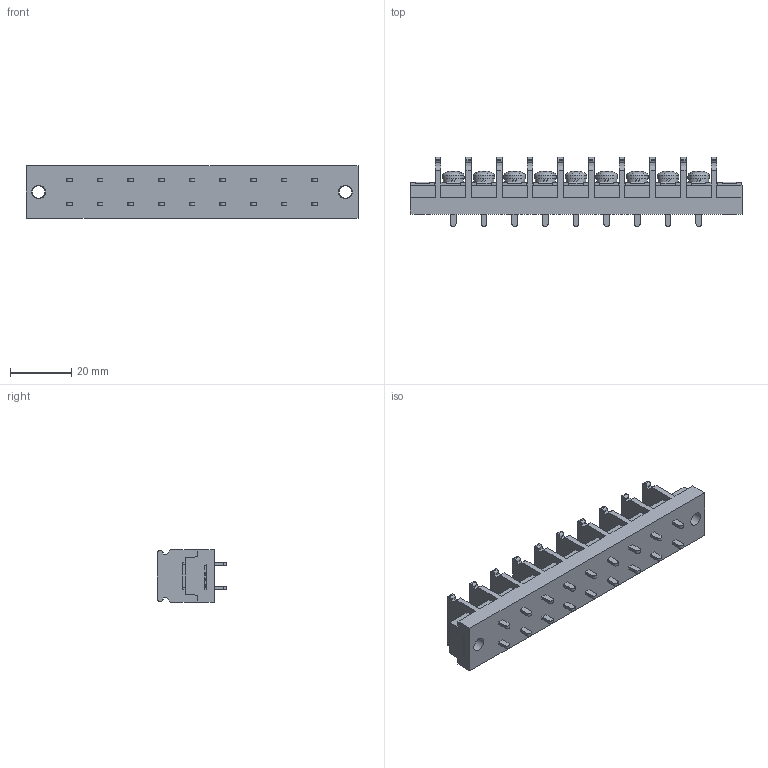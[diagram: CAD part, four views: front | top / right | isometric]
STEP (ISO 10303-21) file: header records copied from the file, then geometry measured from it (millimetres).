
FILE_DESCRIPTION(/* description */ ('Alibre Inc.'),/* implementation_level */ '2;1');
FILE_NAME(/* name */ 'export0',/* time_stamp */ '2015-10-17T15:49:45+09:00',/* author */ (''),/* organization */ (''),/* preprocessor_version */ 'ST-DEVELOPER v14',/* originating_system */ 'Alibre',/* authorisation */ '');
FILE_SCHEMA (('CONFIG_CONTROL_DESIGN'));
Length unit declared in the file: centimetre
Products named in the file (1): ID_1
Bounding box: 108.2 x 22.5 x 17 mm (x, y, z)
Volume: 19803.9 mm3; surface area: 11684.6 mm2
Topology: 1 solids, 17 shells, 1092 faces, 2967 edges, 1969 vertices
Faces by surface type: plane 814, cylinder 111, bspline 104, cone 36, torus 18, sphere 9
Full cylindrical faces by diameter (mm): 4 x11, 4.5 x2, 6.5 x9, 7 x9
Entity records: 33226 total; most frequent: CARTESIAN_POINT 7140, ORIENTED_EDGE 5800, DIRECTION 4256, EDGE_CURVE 2900, VECTOR 2130, LINE 2130, VERTEX_POINT 1942, AXIS2_PLACEMENT_3D 1460
